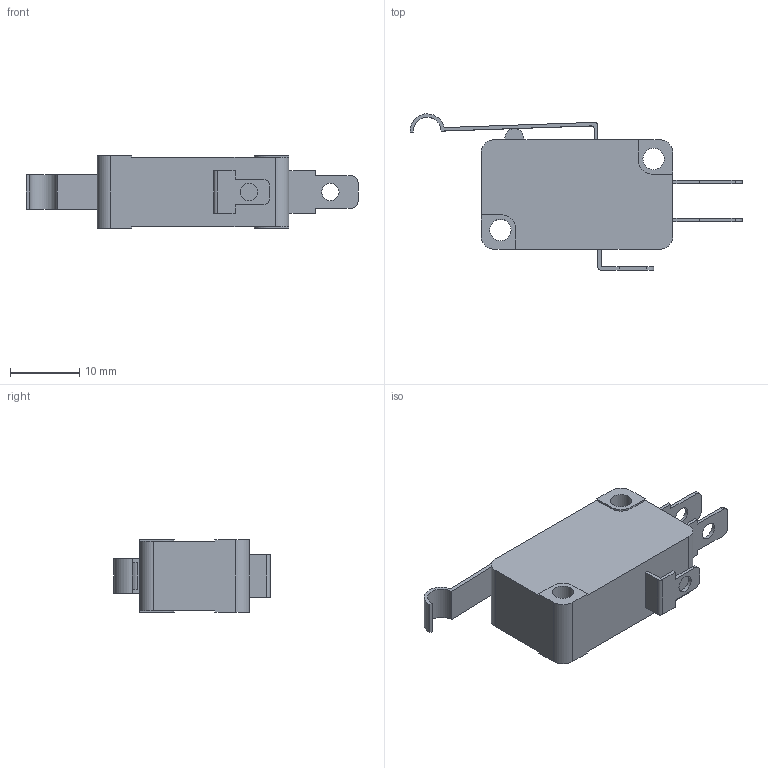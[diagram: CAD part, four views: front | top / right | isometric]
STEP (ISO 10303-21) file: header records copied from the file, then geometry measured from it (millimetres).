
FILE_DESCRIPTION(/* description */ (''),/* implementation_level */ '2;1');
FILE_NAME(/* name */ 'E:\Inventor 2016\제품 외형도\(완료) 리미트 스위치\소형 마이크로 스위치 (V형)\YS RL-15C.stp',/* time_stamp */ '2019-04-09T10:03:36+09:00',/* author */ ('Kim'),/* organization */ (''),/* preprocessor_version */ 'ST-DEVELOPER v16.1',/* originating_system */ 'Autodesk Inventor 2016',/* authorisation */ '');
FILE_SCHEMA (('AUTOMOTIVE_DESIGN { 1 0 10303 214 3 1 1 }'));
Length unit declared in the file: millimetre
Products named in the file (1): YS RL-15C
Bounding box: 48.1 x 22.63 x 10.5 mm (x, y, z)
Volume: 4396.2 mm3; surface area: 2782.8 mm2
Topology: 2 solids, 2 shells, 94 faces, 252 edges, 168 vertices
Faces by surface type: plane 69, cylinder 25
Full cylindrical faces by diameter (mm): 2.5 x3, 3.1 x2
Entity records: 3014 total; most frequent: CARTESIAN_POINT 510, ORIENTED_EDGE 494, DIRECTION 487, EDGE_CURVE 247, LINE 197, VECTOR 197, VERTEX_POINT 168, AXIS2_PLACEMENT_3D 145
